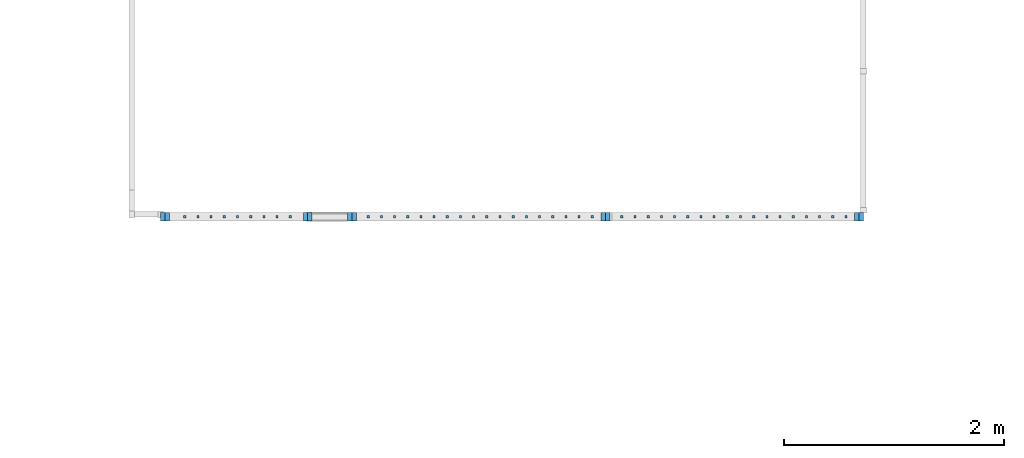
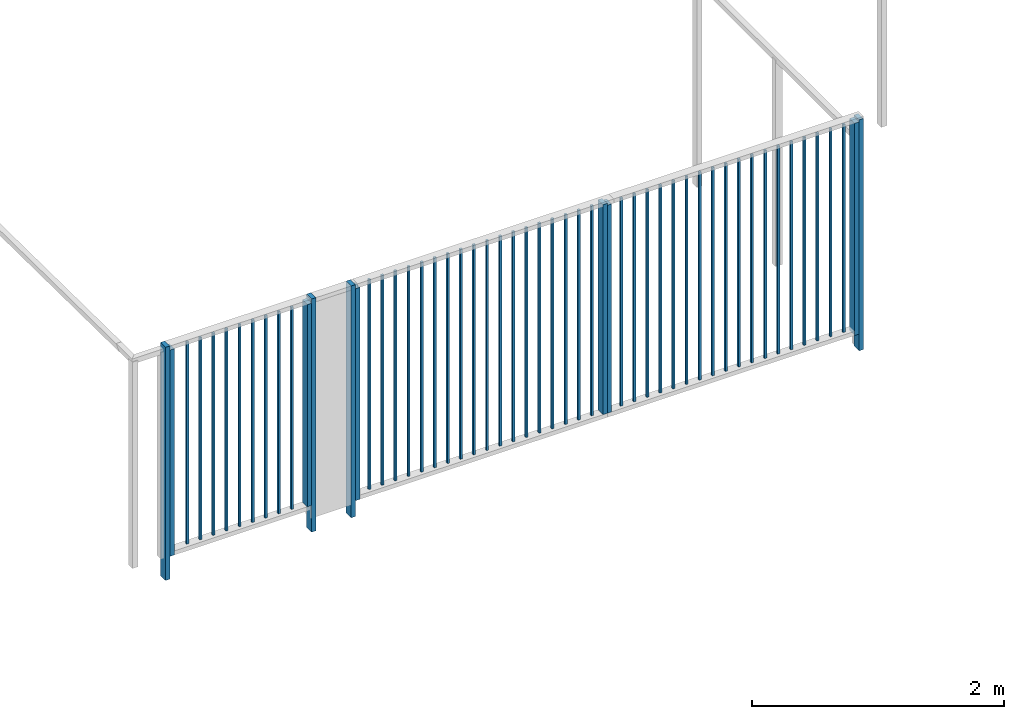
# One storey, part 7 of 91: 55 columns.
"""IFC2X3 building model written with IfcOpenShell, lengths in metres."""

from ifc_helpers import new_model, entity, si_unit, converted_unit, derived_unit, money_unit, direction, frame, origin_with_axes, origin_2d_with_axis, place, context, subcontext, project, spatial, rectangle, extrude, material, type_object, element, save


model = new_model("IFC2X3")

# Units and contexts
model_context = context("Model", 3, precision=1e-05, world=origin_with_axes(), true_north=direction((0.0, 1.0)))
body_context = subcontext(model_context, "Body", "Model", "MODEL_VIEW")
ifc_project = project(units=[si_unit("LENGTHUNIT", "METRE"), si_unit("AREAUNIT", "SQUARE_METRE"), si_unit("VOLUMEUNIT", "CUBIC_METRE"), converted_unit("PLANEANGLEUNIT", "DEGREE", entity("IfcPlaneAngleMeasure", 0.0174532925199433), si_unit("PLANEANGLEUNIT", "RADIAN"), dimensions=[0, 0, 0, 0, 0, 0, 0]), money_unit("EUR"), converted_unit("TIMEUNIT", "Year", entity("IfcTimeMeasure", 31557600.0), si_unit("TIMEUNIT", "SECOND"), dimensions=[0, 0, 1, 0, 0, 0, 0]), si_unit("MASSUNIT", "GRAM", prefix="KILO"), si_unit("THERMODYNAMICTEMPERATUREUNIT", "DEGREE_CELSIUS"), si_unit("LUMINOUSINTENSITYUNIT", "LUMEN"), si_unit("ENERGYUNIT", "JOULE", prefix="MEGA"), derived_unit("THERMALCONDUCTANCEUNIT", [(si_unit("POWERUNIT", "WATT"), 1), (si_unit("LENGTHUNIT", "METRE"), -1), (si_unit("THERMODYNAMICTEMPERATUREUNIT", "KELVIN"), -1)]), derived_unit("SPECIFICHEATCAPACITYUNIT", [(si_unit("ENERGYUNIT", "JOULE"), 1), (si_unit("MASSUNIT", "GRAM", prefix="KILO"), -1), (si_unit("THERMODYNAMICTEMPERATUREUNIT", "KELVIN"), -1)]), derived_unit("MASSDENSITYUNIT", [(si_unit("MASSUNIT", "GRAM", prefix="KILO"), 1), (si_unit("VOLUMEUNIT", "CUBIC_METRE"), -1)])], contexts=[model_context])

# Site, building, storey
site_placement = place(None, origin_with_axes())
site = spatial("IfcSite", under=ifc_project, at=site_placement, Name="Site", CompositionType="ELEMENT")
building_placement = place(site_placement, origin_with_axes())
building = spatial("IfcBuilding", under=site, at=building_placement, Name="Bâtiment", CompositionType="ELEMENT")
storey_placement = place(building_placement, origin_with_axes())
storey = spatial("IfcBuildingStorey", under=building, at=storey_placement, Name="RDC", CompositionType="ELEMENT", Elevation=0.0)

# Columns
ifc_material = material(Name="Métal - Acier")
column_type_1 = type_object("IfcColumnType", Name="Métal - Acier 20 x 20", PredefinedType="NOTDEFINED")
column_1_placement = place(storey_placement, frame((81.93670094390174, 4.57269781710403, -1.499957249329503), z_axis=(0.0, 0.0, 1.0), x_axis=(-1.0, 0.0, 0.0)))
element("IfcColumn", 1, at=column_1_placement, inside=storey, type_object=column_type_1, material=ifc_material, Name="PotB-002", context=body_context, shape_type="SweptSolid", body=[
    extrude(rectangle(XDim=0.02, YDim=0.02, at=origin_2d_with_axis()), origin_with_axes(), (0.0, 0.0, 1.0), 1.959957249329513),
])
column_2_placement = place(storey_placement, frame((87.35470675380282, 4.572697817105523, -1.555472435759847), z_axis=(0.0, 0.0, 1.0), x_axis=(-1.0, 0.0, 0.0)))
element("IfcColumn", 2, at=column_2_placement, inside=storey, type_object=column_type_1, material=ifc_material, Name="PotB-002", context=body_context, shape_type="SweptSolid", body=[
    extrude(rectangle(XDim=0.02, YDim=0.02, at=origin_2d_with_axis()), origin_with_axes(), (0.0, 0.0, 1.0), 2.015472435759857),
])
for number, where, z_axis, x_axis in (
    (3, (85.91470675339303, 4.572697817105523, -1.555472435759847), (0.0, 0.0, 1.0), (-1.0, 0.0, 0.0)),
    (4, (86.27470675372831, 4.572697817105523, -1.555472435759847), (0.0, 0.0, 1.0), (-1.0, 0.0, 0.0)),
    (5, (86.03470675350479, 4.572697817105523, -1.555472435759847), (0.0, 0.0, 1.0), (-1.0, 0.0, 0.0)),
):
    element("IfcColumn", number, at=place(storey_placement, frame(where, z_axis=z_axis, x_axis=x_axis)), inside=storey, type_object=column_type_1, material=ifc_material, Name="PotB-002", context=body_context, shape_type="SweptSolid", body=[
        extrude(rectangle(XDim=0.02, YDim=0.02, at=origin_2d_with_axis()), origin_with_axes(), (0.0, 0.0, 1.0), 2.015472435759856),
    ])
column_3_placement = place(storey_placement, frame((86.87470675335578, 4.572697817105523, -1.555472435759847), z_axis=(0.0, 0.0, 1.0), x_axis=(-1.0, 0.0, 0.0)))
element("IfcColumn", 6, at=column_3_placement, inside=storey, type_object=column_type_1, material=ifc_material, Name="PotB-002", context=body_context, shape_type="SweptSolid", body=[
    extrude(rectangle(XDim=0.02, YDim=0.02, at=origin_2d_with_axis()), origin_with_axes(), (0.0, 0.0, 1.0), 2.015472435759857),
])
column_4_placement = place(storey_placement, frame((85.67470675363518, 4.572697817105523, -1.555472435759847), z_axis=(0.0, 0.0, 1.0), x_axis=(-1.0, 0.0, 0.0)))
element("IfcColumn", 7, at=column_4_placement, inside=storey, type_object=column_type_1, material=ifc_material, Name="PotB-002", context=body_context, shape_type="SweptSolid", body=[
    extrude(rectangle(XDim=0.02, YDim=0.02, at=origin_2d_with_axis()), origin_with_axes(), (0.0, 0.0, 1.0), 2.015472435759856),
])
for number, where, z_axis, x_axis in (
    (8, (86.75470675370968, 4.572697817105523, -1.555472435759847), (0.0, 0.0, 1.0), (-1.0, 0.0, 0.0)),
    (9, (86.99470675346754, 4.572697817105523, -1.555472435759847), (0.0, 0.0, 1.0), (-1.0, 0.0, 0.0)),
    (10, (86.51470675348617, 4.572697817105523, -1.555472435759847), (0.0, 0.0, 1.0), (-1.0, 0.0, 0.0)),
    (11, (87.1147067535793, 4.572697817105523, -1.555472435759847), (0.0, 0.0, 1.0), (-1.0, 0.0, 0.0)),
):
    element("IfcColumn", number, at=place(storey_placement, frame(where, z_axis=z_axis, x_axis=x_axis)), inside=storey, type_object=column_type_1, material=ifc_material, Name="PotB-002", context=body_context, shape_type="SweptSolid", body=[
        extrude(rectangle(XDim=0.02, YDim=0.02, at=origin_2d_with_axis()), origin_with_axes(), (0.0, 0.0, 1.0), 2.015472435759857),
    ])
column_5_placement = place(storey_placement, frame((85.79470675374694, 4.572697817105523, -1.555472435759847), z_axis=(0.0, 0.0, 1.0), x_axis=(-1.0, 0.0, 0.0)))
element("IfcColumn", 12, at=column_5_placement, inside=storey, type_object=column_type_1, material=ifc_material, Name="PotB-002", context=body_context, shape_type="SweptSolid", body=[
    extrude(rectangle(XDim=0.02, YDim=0.02, at=origin_2d_with_axis()), origin_with_axes(), (0.0, 0.0, 1.0), 2.015472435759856),
])
column_6_placement = place(storey_placement, frame((86.63470675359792, 4.572697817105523, -1.555472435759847), z_axis=(0.0, 0.0, 1.0), x_axis=(-1.0, 0.0, 0.0)))
element("IfcColumn", 13, at=column_6_placement, inside=storey, type_object=column_type_1, material=ifc_material, Name="PotB-002", context=body_context, shape_type="SweptSolid", body=[
    extrude(rectangle(XDim=0.02, YDim=0.02, at=origin_2d_with_axis()), origin_with_axes(), (0.0, 0.0, 1.0), 2.015472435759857),
])
for number, where, z_axis, x_axis in (
    (14, (85.43470675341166, 4.572697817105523, -1.555472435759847), (0.0, 0.0, 1.0), (-1.0, 0.0, 0.0)),
    (15, (85.55470675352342, 4.572697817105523, -1.555472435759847), (0.0, 0.0, 1.0), (-1.0, 0.0, 0.0)),
):
    element("IfcColumn", number, at=place(storey_placement, frame(where, z_axis=z_axis, x_axis=x_axis)), inside=storey, type_object=column_type_1, material=ifc_material, Name="PotB-002", context=body_context, shape_type="SweptSolid", body=[
        extrude(rectangle(XDim=0.02, YDim=0.02, at=origin_2d_with_axis()), origin_with_axes(), (0.0, 0.0, 1.0), 2.015472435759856),
    ])
column_7_placement = place(storey_placement, frame((87.23470675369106, 4.572697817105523, -1.555472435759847), z_axis=(0.0, 0.0, 1.0), x_axis=(-1.0, 0.0, 0.0)))
element("IfcColumn", 16, at=column_7_placement, inside=storey, type_object=column_type_1, material=ifc_material, Name="PotB-002", context=body_context, shape_type="SweptSolid", body=[
    extrude(rectangle(XDim=0.02, YDim=0.02, at=origin_2d_with_axis()), origin_with_axes(), (0.0, 0.0, 1.0), 2.015472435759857),
])
for number, where, z_axis, x_axis in (
    (17, (86.15470675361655, 4.572697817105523, -1.555472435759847), (0.0, 0.0, 1.0), (-1.0, 0.0, 0.0)),
    (18, (86.39470675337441, 4.572697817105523, -1.555472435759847), (0.0, 0.0, 1.0), (-1.0, 0.0, 0.0)),
):
    element("IfcColumn", number, at=place(storey_placement, frame(where, z_axis=z_axis, x_axis=x_axis)), inside=storey, type_object=column_type_1, material=ifc_material, Name="PotB-002", context=body_context, shape_type="SweptSolid", body=[
        extrude(rectangle(XDim=0.02, YDim=0.02, at=origin_2d_with_axis()), origin_with_axes(), (0.0, 0.0, 1.0), 2.015472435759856),
    ])
for number, where, z_axis, x_axis in (
    (19, (84.20595910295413, 4.572697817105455, -1.555472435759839), (0.0, 0.0, 1.0), (-1.0, 0.0, 0.0)),
    (20, (83.96595910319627, 4.572697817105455, -1.555472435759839), (0.0, 0.0, 1.0), (-1.0, 0.0, 0.0)),
    (21, (85.04595910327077, 4.572697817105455, -1.555472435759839), (0.0, 0.0, 1.0), (-1.0, 0.0, 0.0)),
    (22, (84.80595910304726, 4.572697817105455, -1.555472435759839), (0.0, 0.0, 1.0), (-1.0, 0.0, 0.0)),
    (23, (84.92595910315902, 4.572697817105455, -1.555472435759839), (0.0, 0.0, 1.0), (-1.0, 0.0, 0.0)),
    (24, (84.32595910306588, 4.572697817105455, -1.555472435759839), (0.0, 0.0, 1.0), (-1.0, 0.0, 0.0)),
    (25, (84.08595910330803, 4.572697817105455, -1.555472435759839), (0.0, 0.0, 1.0), (-1.0, 0.0, 0.0)),
    (26, (84.44595910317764, 4.572697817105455, -1.555472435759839), (0.0, 0.0, 1.0), (-1.0, 0.0, 0.0)),
    (27, (84.6859591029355, 4.572697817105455, -1.555472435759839), (0.0, 0.0, 1.0), (-1.0, 0.0, 0.0)),
    (28, (83.72595910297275, 4.572697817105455, -1.555472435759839), (0.0, 0.0, 1.0), (-1.0, 0.0, 0.0)),
    (29, (83.60595910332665, 4.572697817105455, -1.555472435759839), (0.0, 0.0, 1.0), (-1.0, 0.0, 0.0)),
    (30, (83.84595910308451, 4.572697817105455, -1.555472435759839), (0.0, 0.0, 1.0), (-1.0, 0.0, 0.0)),
    (31, (84.5659591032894, 4.572697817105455, -1.555472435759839), (0.0, 0.0, 1.0), (-1.0, 0.0, 0.0)),
    (32, (83.4859591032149, 4.572697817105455, -1.555472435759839), (0.0, 0.0, 1.0), (-1.0, 0.0, 0.0)),
    (33, (83.36595910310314, 4.572697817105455, -1.555472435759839), (0.0, 0.0, 1.0), (-1.0, 0.0, 0.0)),
    (34, (83.24595910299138, 4.572697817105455, -1.555472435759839), (0.0, 0.0, 1.0), (-1.0, 0.0, 0.0)),
    (35, (83.12595910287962, 4.572697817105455, -1.555472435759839), (0.0, 0.0, 1.0), (-1.0, 0.0, 0.0)),
):
    element("IfcColumn", number, at=place(storey_placement, frame(where, z_axis=z_axis, x_axis=x_axis)), inside=storey, type_object=column_type_1, material=ifc_material, Name="PotB-002", context=body_context, shape_type="SweptSolid", body=[
        extrude(rectangle(XDim=0.02, YDim=0.02, at=origin_2d_with_axis()), frame((0.0, 0.0, 0.0), z_axis=(0.0, 0.0, -1.0), x_axis=(-1.0, 0.0, 0.0)), (0.0, 0.0, -1.0), 2.035472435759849),
    ])
for number, where, z_axis, x_axis in (
    (36, (82.29670094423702, 4.57269781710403, -1.499957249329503), (0.0, 0.0, 1.0), (-1.0, 0.0, 0.0)),
    (37, (81.57670094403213, 4.57269781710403, -1.499957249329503), (0.0, 0.0, 1.0), (-1.0, 0.0, 0.0)),
    (38, (82.41670094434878, 4.57269781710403, -1.499957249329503), (0.0, 0.0, 1.0), (-1.0, 0.0, 0.0)),
    (39, (82.17670094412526, 4.57269781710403, -1.499957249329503), (0.0, 0.0, 1.0), (-1.0, 0.0, 0.0)),
    (40, (81.45670094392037, 4.57269781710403, -1.499957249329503), (0.0, 0.0, 1.0), (-1.0, 0.0, 0.0)),
    (41, (82.0567009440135, 4.57269781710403, -1.499957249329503), (0.0, 0.0, 1.0), (-1.0, 0.0, 0.0)),
    (42, (81.81670094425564, 4.57269781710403, -1.499957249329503), (0.0, 0.0, 1.0), (-1.0, 0.0, 0.0)),
    (43, (81.69670094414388, 4.57269781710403, -1.499957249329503), (0.0, 0.0, 1.0), (-1.0, 0.0, 0.0)),
):
    element("IfcColumn", number, at=place(storey_placement, frame(where, z_axis=z_axis, x_axis=x_axis)), inside=storey, type_object=column_type_1, material=ifc_material, Name="PotB-002", context=body_context, shape_type="SweptSolid", body=[
        extrude(rectangle(XDim=0.02, YDim=0.02, at=origin_2d_with_axis()), origin_with_axes(), (0.0, 0.0, 1.0), 1.959957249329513),
    ])
column_8_placement = place(storey_placement, frame((85.16595910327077, 4.572697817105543, -1.555472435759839), z_axis=(0.0, 0.0, 1.0), x_axis=(-1.0, 0.0, 0.0)))
element("IfcColumn", 44, at=column_8_placement, inside=storey, type_object=column_type_1, material=ifc_material, Name="PotB-002", context=body_context, shape_type="SweptSolid", body=[
    extrude(rectangle(XDim=0.02, YDim=0.02, at=origin_2d_with_axis()), frame((0.0, 0.0, 0.0), z_axis=(0.0, 0.0, -1.0), x_axis=(-1.0, 0.0, 0.0)), (0.0, 0.0, -1.0), 2.035472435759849),
])
column_9_placement = place(storey_placement, frame((87.4747067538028, 4.572697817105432, -1.555472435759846), z_axis=(0.0, 0.0, 1.0), x_axis=(-1.0, 0.0, 0.0)))
element("IfcColumn", 45, at=column_9_placement, inside=storey, type_object=column_type_1, material=ifc_material, Name="PotB-002", context=body_context, shape_type="SweptSolid", body=[
    extrude(rectangle(XDim=0.02, YDim=0.02, at=origin_2d_with_axis()), origin_with_axes(), (0.0, 0.0, 1.0), 2.015472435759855),
])
column_type_2 = type_object("IfcColumnType", Name="Métal - Acier 40 x 80", PredefinedType="NOTDEFINED")
column_10_placement = place(storey_placement, frame((82.59570094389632, 4.572697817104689, -1.75973343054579), z_axis=(0.0, 0.0, 1.0), x_axis=(-1.0, 0.0, 0.0)))
element("IfcColumn", 46, at=column_10_placement, inside=storey, type_object=column_type_2, material=ifc_material, Name="PotB-002", context=body_context, shape_type="SweptSolid", body=[
    extrude(rectangle(XDim=0.04, YDim=0.08, at=origin_2d_with_axis()), frame((0.0, 0.0, 0.0), z_axis=(0.0, 0.0, -1.0), x_axis=(-1.0, 0.0, 0.0)), (0.0, 0.0, -1.0), 2.2597334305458),
])
column_11_placement = place(storey_placement, frame((82.95745703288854, 4.572697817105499, -1.746693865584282), z_axis=(0.0, 0.0, 1.0), x_axis=(-1.0, 0.0, 0.0)))
element("IfcColumn", 47, at=column_11_placement, inside=storey, type_object=column_type_2, material=ifc_material, Name="PotB-002", context=body_context, shape_type="SweptSolid", body=[
    extrude(rectangle(XDim=0.04, YDim=0.08, at=origin_2d_with_axis()), frame((0.0, 0.0, 0.0), z_axis=(0.0, 0.0, -1.0), x_axis=(-1.0, 0.0, 0.0)), (0.0, 0.0, -1.0), 2.246693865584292),
])
column_12_placement = place(storey_placement, frame((87.61370675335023, 4.57269781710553, -1.758609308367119), z_axis=(0.0, 0.0, 1.0), x_axis=(-1.0, 0.0, 0.0)))
element("IfcColumn", 48, at=column_12_placement, inside=storey, type_object=column_type_2, material=ifc_material, Name="PotB-002", context=body_context, shape_type="SweptSolid", body=[
    extrude(rectangle(XDim=0.04, YDim=0.08, at=origin_2d_with_axis()), frame((0.0, 0.0, 0.0), z_axis=(0.0, 0.0, -1.0), x_axis=(-1.0, 0.0, 0.0)), (0.0, 0.0, -1.0), 2.238609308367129),
])
column_13_placement = place(storey_placement, frame((81.25636843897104, 4.573027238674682, -1.759999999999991), z_axis=(0.0, 0.0, 1.0), x_axis=(-1.0, 0.0, 0.0)))
element("IfcColumn", 49, at=column_13_placement, inside=storey, type_object=column_type_2, material=ifc_material, Name="PotB-002", context=body_context, shape_type="SweptSolid", body=[
    extrude(rectangle(XDim=0.04, YDim=0.08, at=origin_2d_with_axis()), origin_with_axes(), (0.0, 0.0, 1.0), 2.260000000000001),
])
column_14_placement = place(storey_placement, frame((85.30533292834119, 4.572697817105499, -1.555472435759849), z_axis=(0.0, 0.0, 1.0), x_axis=(-1.0, 0.0, 0.0)))
element("IfcColumn", 50, at=column_14_placement, inside=storey, type_object=column_type_2, material=ifc_material, Name="PotB-002", context=body_context, shape_type="SweptSolid", body=[
    extrude(rectangle(XDim=0.04, YDim=0.08, at=origin_2d_with_axis()), origin_with_axes(), (0.0, 0.0, 1.0), 2.015472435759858),
])
column_15_placement = place(storey_placement, frame((87.57370675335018, 4.572697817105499, -1.595472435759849), z_axis=(0.0, 0.0, 1.0), x_axis=(-1.0, 0.0, 0.0)))
element("IfcColumn", 51, at=column_15_placement, inside=storey, type_object=column_type_2, material=ifc_material, Name="PotB-002", context=body_context, shape_type="SweptSolid", body=[
    extrude(rectangle(XDim=0.04, YDim=0.08, at=origin_2d_with_axis()), origin_with_axes(), (0.0, 0.0, 1.0), 2.055472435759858),
])
column_16_placement = place(storey_placement, frame((82.99745703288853, 4.572697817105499, -1.595472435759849), z_axis=(0.0, 0.0, 1.0), x_axis=(-1.0, 0.0, 0.0)))
element("IfcColumn", 52, at=column_16_placement, inside=storey, type_object=column_type_2, material=ifc_material, Name="PotB-002", context=body_context, shape_type="SweptSolid", body=[
    extrude(rectangle(XDim=0.04, YDim=0.08, at=origin_2d_with_axis()), frame((0.0, 0.0, 0.0), z_axis=(0.0, 0.0, -1.0), x_axis=(-1.0, 0.0, 0.0)), (0.0, 0.0, -1.0), 2.055472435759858),
])
column_17_placement = place(storey_placement, frame((85.26533292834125, 4.572697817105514, -1.555472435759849), z_axis=(0.0, 0.0, 1.0), x_axis=(-1.0, 0.0, 0.0)))
element("IfcColumn", 53, at=column_17_placement, inside=storey, type_object=column_type_2, material=ifc_material, Name="PotB-002", context=body_context, shape_type="SweptSolid", body=[
    extrude(rectangle(XDim=0.04, YDim=0.08, at=origin_2d_with_axis()), frame((0.0, 0.0, 0.0), z_axis=(0.0, 0.0, -1.0), x_axis=(-1.0, 0.0, 0.0)), (0.0, 0.0, -1.0), 2.035472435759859),
])
column_18_placement = place(storey_placement, frame((82.55570094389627, 4.572697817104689, -1.499957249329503), z_axis=(0.0, 0.0, 1.0), x_axis=(-1.0, 0.0, 0.0)))
element("IfcColumn", 54, at=column_18_placement, inside=storey, type_object=column_type_2, material=ifc_material, Name="PotB-002", context=body_context, shape_type="SweptSolid", body=[
    extrude(rectangle(XDim=0.04, YDim=0.08, at=origin_2d_with_axis()), origin_with_axes(), (0.0, 0.0, 1.0), 1.959957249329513),
])
column_19_placement = place(storey_placement, frame((81.29636843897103, 4.573027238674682, -1.539957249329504), z_axis=(0.0, 0.0, 1.0), x_axis=(-1.0, 0.0, 0.0)))
element("IfcColumn", 55, at=column_19_placement, inside=storey, type_object=column_type_2, material=ifc_material, Name="PotB-002", context=body_context, shape_type="SweptSolid", body=[
    extrude(rectangle(XDim=0.04, YDim=0.08, at=origin_2d_with_axis()), origin_with_axes(), (0.0, 0.0, 1.0), 1.999957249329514),
])

save(model, "model.ifc")
